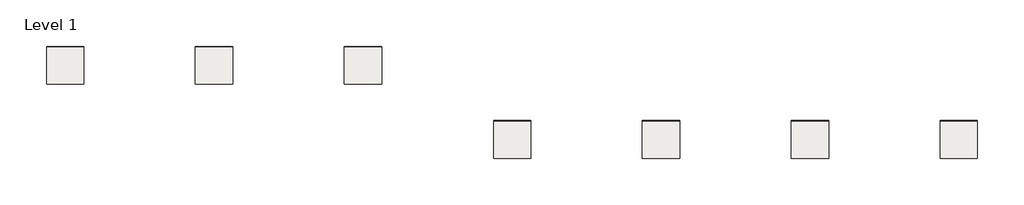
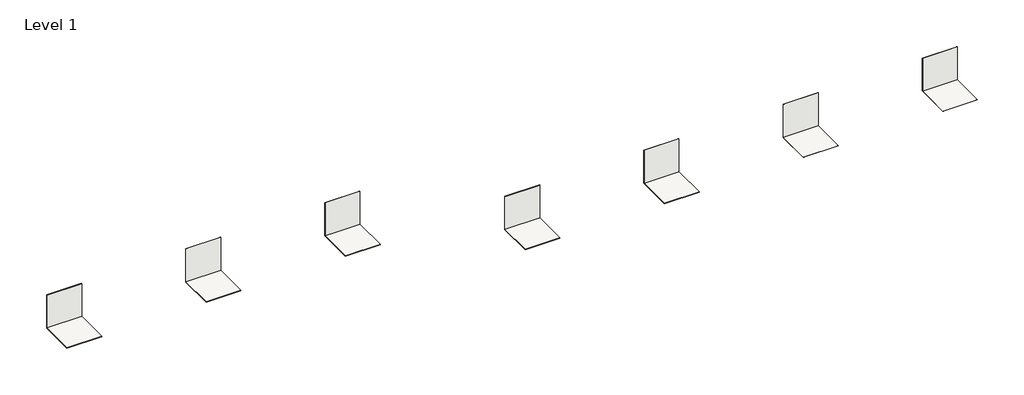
# One storey: 14 coverings.
"""IFC4 building model written with IfcOpenShell, lengths in millimetres."""

from ifc_helpers import new_model, si_unit, frame, origin, origin_with_axes, place, context, project, spatial, polyline, outline, extrude, element, save

model = new_model("IFC4")

# Units and contexts
model_context = context("Model", 3, world=origin())
ifc_project = project(units=[si_unit("LENGTHUNIT", "METRE", prefix="MILLI")], contexts=[model_context])

# Site, building, storey
site = spatial("IfcSite", under=ifc_project)
building = spatial("IfcBuilding", under=site)
storey = spatial("IfcBuildingStorey", under=building, Name="Level 1", Elevation=0.0)

# Coverings
placement = place(None, origin())
element("IfcCovering", 1, ObjectType="REVIGRÉS-LOCUS-DECOR-16,5X19-SOFT GRIP-HEXA FLOW BONE", at=placement, inside=storey, context=model_context, shape_type="SweptSolid", body=[
    extrude(outline(polyline([(3936.1017301, 3103.8257974), (2936.1017301, 3103.8257974), (2936.1017301, 3112.3257974), (3936.1017301, 3112.3257974), (3936.1017301, 3103.8257974)])), origin_with_axes(), (0.0, 0.0, 1.0), 1000.0),
])
element("IfcCovering", 2, ObjectType="REVIGRÉS-LOCUS-DECOR-16,5X19-SOFT GRIP-HEXA FLOW BONE", at=placement, inside=storey, context=model_context, shape_type="SweptSolid", body=[
    extrude(outline(polyline([(3936.1017301, 3103.8257974), (3936.1017301, 2103.1757974), (2936.1017301, 2103.1757974), (2936.1017301, 3103.8257974), (3936.1017301, 3103.8257974)])), frame((0.0, 0.0, -8.5), z_axis=(0.0, 0.0, 1.0), x_axis=(1.0, 0.0, 0.0)), (0.0, 0.0, 1.0), 8.5),
])
element("IfcCovering", 3, ObjectType="REVIGRÉS-LOCUS-DECOR-16,5X19-SOFT GRIP-HEXA FLOW SMOG", at=placement, inside=storey, context=model_context, shape_type="SweptSolid", body=[
    extrude(outline(polyline([(7936.1017301, 3103.8257974), (6936.1017301, 3103.8257974), (6936.1017301, 3112.3257974), (7936.1017301, 3112.3257974), (7936.1017301, 3103.8257974)])), origin_with_axes(), (0.0, 0.0, 1.0), 1000.0),
])
element("IfcCovering", 4, ObjectType="REVIGRÉS-LOCUS-DECOR-16,5X19-SOFT GRIP-HEXA FLOW SMOG", at=placement, inside=storey, context=model_context, shape_type="SweptSolid", body=[
    extrude(outline(polyline([(7936.1017301, 3103.8257974), (7936.1017301, 2103.1757974), (6936.1017301, 2103.1757974), (6936.1017301, 3103.8257974), (7936.1017301, 3103.8257974)])), frame((0.0, 0.0, -8.5), z_axis=(0.0, 0.0, 1.0), x_axis=(1.0, 0.0, 0.0)), (0.0, 0.0, 1.0), 8.5),
])
element("IfcCovering", 5, ObjectType="REVIGRÉS-LOCUS-DECOR-16,5X19-SOFT GRIP-HEXA SHADOW GRIS", at=placement, inside=storey, context=model_context, shape_type="SweptSolid", body=[
    extrude(outline(polyline([(11936.1017301, 3103.8257974), (10936.1017301, 3103.8257974), (10936.1017301, 3112.3257974), (11936.1017301, 3112.3257974), (11936.1017301, 3103.8257974)])), origin_with_axes(), (0.0, 0.0, 1.0), 1000.0),
])
element("IfcCovering", 6, ObjectType="REVIGRÉS-LOCUS-DECOR-16,5X19-SOFT GRIP-HEXA SHADOW GRIS", at=placement, inside=storey, context=model_context, shape_type="SweptSolid", body=[
    extrude(outline(polyline([(11936.1017301, 3103.8257974), (11936.1017301, 2103.1757974), (10936.1017301, 2103.1757974), (10936.1017301, 3103.8257974), (11936.1017301, 3103.8257974)])), frame((0.0, 0.0, -8.5), z_axis=(0.0, 0.0, 1.0), x_axis=(1.0, 0.0, 0.0)), (0.0, 0.0, 1.0), 8.5),
])
element("IfcCovering", 7, ObjectType="REVIGRÉS-LOCUS-DECOR-30X30-SILK-STRATUS 9 LOCUS MIX BRICK", at=placement, inside=storey, context=model_context, shape_type="SweptSolid", body=[
    extrude(outline(polyline([(15948.642714, 1103.8257974), (14948.642714, 1103.8257974), (14948.642714, 1112.3257974), (15948.642714, 1112.3257974), (15948.642714, 1103.8257974)])), origin_with_axes(), (0.0, 0.0, 1.0), 1000.0),
])
element("IfcCovering", 8, ObjectType="REVIGRÉS-LOCUS-DECOR-30X30-SILK-STRATUS 9 LOCUS MIX COBALTO", at=placement, inside=storey, context=model_context, shape_type="SweptSolid", body=[
    extrude(outline(polyline([(19948.642714, 1103.8257974), (18948.642714, 1103.8257974), (18948.642714, 1112.3257974), (19948.642714, 1112.3257974), (19948.642714, 1103.8257974)])), origin_with_axes(), (0.0, 0.0, 1.0), 1000.0),
])
element("IfcCovering", 9, ObjectType="REVIGRÉS-LOCUS-DECOR-30X30-SILK-STRATUS 9 LOCUS MIX OLIVA", at=placement, inside=storey, context=model_context, shape_type="SweptSolid", body=[
    extrude(outline(polyline([(23948.642714, 1103.8257974), (22948.642714, 1103.8257974), (22948.642714, 1112.3257974), (23948.642714, 1112.3257974), (23948.642714, 1103.8257974)])), origin_with_axes(), (0.0, 0.0, 1.0), 1000.0),
])
element("IfcCovering", 10, ObjectType="REVIGRÉS-LOCUS-DECOR-30X30-SILK-STRATUS 9 LOCUS MIX BRICK", at=placement, inside=storey, context=model_context, shape_type="SweptSolid", body=[
    extrude(outline(polyline([(15948.642714, 1103.8257974), (15948.642714, 103.8257974), (14948.642714, 103.8257974), (14948.642714, 1103.8257974), (15948.642714, 1103.8257974)])), frame((0.0, 0.0, -8.5), z_axis=(0.0, 0.0, 1.0), x_axis=(1.0, 0.0, 0.0)), (0.0, 0.0, 1.0), 8.5),
])
element("IfcCovering", 11, ObjectType="REVIGRÉS-LOCUS-DECOR-30X30-SILK-STRATUS 9 LOCUS MIX COBALTO", at=placement, inside=storey, context=model_context, shape_type="SweptSolid", body=[
    extrude(outline(polyline([(19948.642714, 1103.8257974), (19948.642714, 103.8257974), (18948.642714, 103.8257974), (18948.642714, 1103.8257974), (19948.642714, 1103.8257974)])), frame((0.0, 0.0, -8.5), z_axis=(0.0, 0.0, 1.0), x_axis=(1.0, 0.0, 0.0)), (0.0, 0.0, 1.0), 8.5),
])
element("IfcCovering", 12, ObjectType="REVIGRÉS-LOCUS-DECOR-30X30-SILK-STRATUS 9 LOCUS MIX OLIVA", at=placement, inside=storey, context=model_context, shape_type="SweptSolid", body=[
    extrude(outline(polyline([(23948.642714, 1103.8257974), (23948.642714, 103.8257974), (22948.642714, 103.8257974), (22948.642714, 1103.8257974), (23948.642714, 1103.8257974)])), frame((0.0, 0.0, -8.5), z_axis=(0.0, 0.0, 1.0), x_axis=(1.0, 0.0, 0.0)), (0.0, 0.0, 1.0), 8.5),
])
element("IfcCovering", 13, ObjectType="REVIGRÉS-LOCUS-DECOR-30X30-SILK-STRATUS 9 LOCUS MIX OCRE", at=placement, inside=storey, context=model_context, shape_type="SweptSolid", body=[
    extrude(outline(polyline([(27948.642714, 1103.8257974), (26948.642714, 1103.8257974), (26948.642714, 1112.3257974), (27948.642714, 1112.3257974), (27948.642714, 1103.8257974)])), origin_with_axes(), (0.0, 0.0, 1.0), 1000.0),
])
element("IfcCovering", 14, ObjectType="REVIGRÉS-LOCUS-DECOR-30X30-SILK-STRATUS 9 LOCUS MIX OCRE", at=placement, inside=storey, context=model_context, shape_type="SweptSolid", body=[
    extrude(outline(polyline([(27948.642714, 1103.8257974), (27948.642714, 103.8257974), (26948.642714, 103.8257974), (26948.642714, 1103.8257974), (27948.642714, 1103.8257974)])), frame((0.0, 0.0, -8.5), z_axis=(0.0, 0.0, 1.0), x_axis=(1.0, 0.0, 0.0)), (0.0, 0.0, 1.0), 8.5),
])

save(model, "model.ifc")
